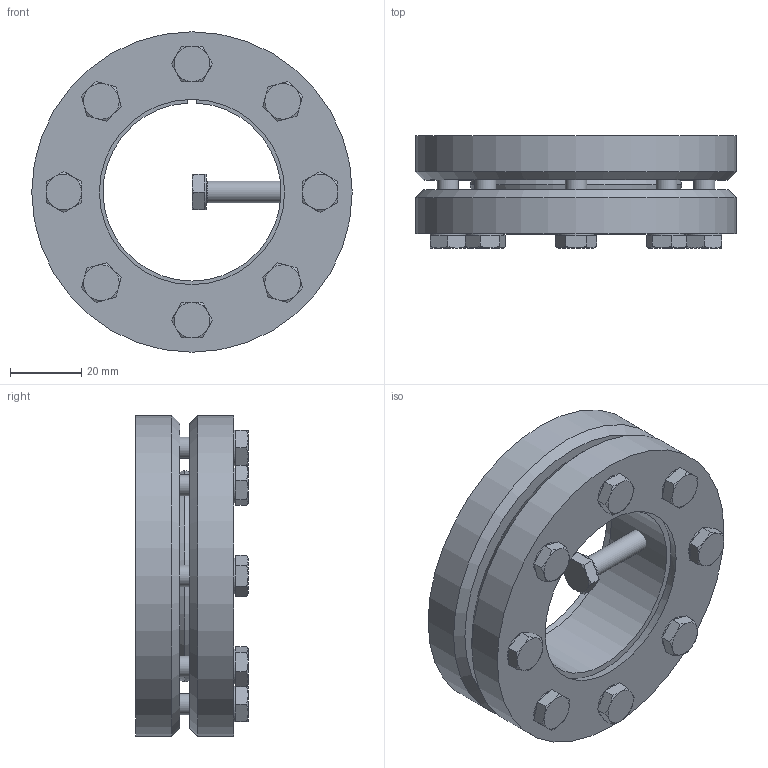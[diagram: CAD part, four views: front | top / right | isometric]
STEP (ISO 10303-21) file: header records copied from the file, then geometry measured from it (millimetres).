
FILE_DESCRIPTION( ( 'Unknown' ), '1' );
FILE_NAME( 'C:/Dokumente und Einstellungen/Sven/Desktop/homepage/cad - homepage/KBS19/KBS 19 - 50 x 90.stp', 'Unknown', ( 'Unknown' ), ( 'Unknown' ), 'XStep 1.0', 'Unknown', ' ' );
FILE_SCHEMA( ( 'automotive_design' ) );
Length unit declared in the file: millimetre
Products named in the file (3): Assem1; KBS 19 - 50 x 90; ISO 4017 - M6 x 25-N
Bounding box: 90 x 31.5 x 90 mm (x, y, z)
Volume: 214529.1 mm3; surface area: 67874.3 mm2
Topology: 11 solids, 11 shells, 303 faces, 706 edges, 434 vertices
Faces by surface type: plane 163, cone 75, cylinder 56, torus 9
Full cylindrical faces by diameter (mm): 6 x41, 10 x9, 90 x4
Entity records: 2208 total; most frequent: CARTESIAN_POINT 341, DIRECTION 326, ORIENTED_EDGE 252, AXIS2_PLACEMENT_3D 142, EDGE_LOOP 127, EDGE_CURVE 126, VERTEX_POINT 93, FACE_OUTER_BOUND 85
